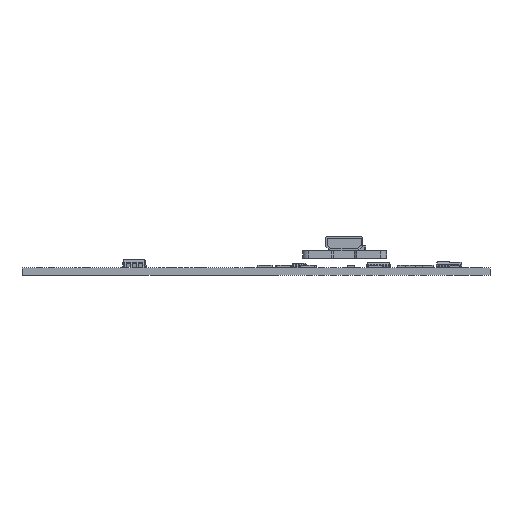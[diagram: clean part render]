
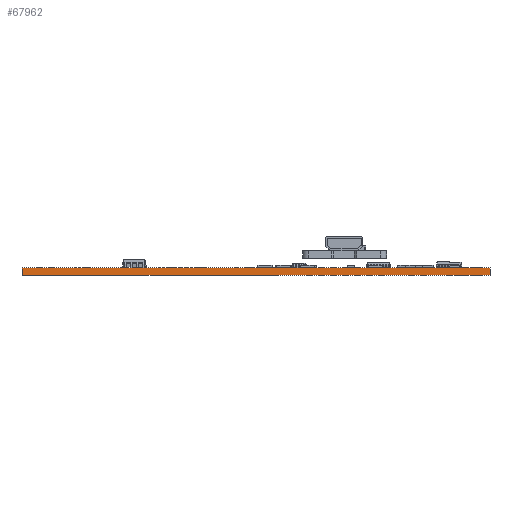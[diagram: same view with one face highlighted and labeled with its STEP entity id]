
A CAD part, left-side view. The second image highlights one B-rep face of the part: STEP entity #67962.
In plain terms, the highlighted planar face has unit normal (-1, 0, 0).
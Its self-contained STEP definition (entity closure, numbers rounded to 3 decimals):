
#67962 = ADVANCED_FACE('',(#67963),#67977,.F.);
#67963 = FACE_BOUND('',#67964,.F.);
#67964 = EDGE_LOOP('',(#67965,#68000,#68028,#68056));
#67965 = ORIENTED_EDGE('',*,*,#67966,.T.);
#67966 = EDGE_CURVE('',#67967,#67969,#67971,.T.);
#67967 = VERTEX_POINT('',#67968);
#67968 = CARTESIAN_POINT('',(99.06,-45.72,0.));
#67969 = VERTEX_POINT('',#67970);
#67970 = CARTESIAN_POINT('',(99.06,-45.72,1.6));
#67971 = SURFACE_CURVE('',#67972,(#67976,#67988),.PCURVE_S1.);
#67972 = LINE('',#67973,#67974);
#67973 = CARTESIAN_POINT('',(99.06,-45.72,0.));
#67974 = VECTOR('',#67975,1.);
#67975 = DIRECTION('',(0.,0.,1.));
#67976 = PCURVE('',#67977,#67982);
#67977 = PLANE('',#67978);
#67978 = AXIS2_PLACEMENT_3D('',#67979,#67980,#67981);
#67979 = CARTESIAN_POINT('',(99.06,-45.72,0.));
#67980 = DIRECTION('',(1.,0.,0.));
#67981 = DIRECTION('',(0.,-1.,0.));
#67982 = DEFINITIONAL_REPRESENTATION('',(#67983),#67987);
#67983 = LINE('',#67984,#67985);
#67984 = CARTESIAN_POINT('',(0.,0.));
#67985 = VECTOR('',#67986,1.);
#67986 = DIRECTION('',(0.,-1.));
#67987 = ( GEOMETRIC_REPRESENTATION_CONTEXT(2) 
PARAMETRIC_REPRESENTATION_CONTEXT() REPRESENTATION_CONTEXT('2D SPACE',''
  ) );
#67988 = PCURVE('',#67989,#67994);
#67989 = PLANE('',#67990);
#67990 = AXIS2_PLACEMENT_3D('',#67991,#67992,#67993);
#67991 = CARTESIAN_POINT('',(198.12,-45.72,0.));
#67992 = DIRECTION('',(0.,-1.,0.));
#67993 = DIRECTION('',(-1.,0.,0.));
#67994 = DEFINITIONAL_REPRESENTATION('',(#67995),#67999);
#67995 = LINE('',#67996,#67997);
#67996 = CARTESIAN_POINT('',(99.06,0.));
#67997 = VECTOR('',#67998,1.);
#67998 = DIRECTION('',(0.,-1.));
#67999 = ( GEOMETRIC_REPRESENTATION_CONTEXT(2) 
PARAMETRIC_REPRESENTATION_CONTEXT() REPRESENTATION_CONTEXT('2D SPACE',''
  ) );
#68000 = ORIENTED_EDGE('',*,*,#68001,.T.);
#68001 = EDGE_CURVE('',#67969,#68002,#68004,.T.);
#68002 = VERTEX_POINT('',#68003);
#68003 = CARTESIAN_POINT('',(99.06,-144.78,1.6));
#68004 = SURFACE_CURVE('',#68005,(#68009,#68016),.PCURVE_S1.);
#68005 = LINE('',#68006,#68007);
#68006 = CARTESIAN_POINT('',(99.06,-45.72,1.6));
#68007 = VECTOR('',#68008,1.);
#68008 = DIRECTION('',(0.,-1.,0.));
#68009 = PCURVE('',#67977,#68010);
#68010 = DEFINITIONAL_REPRESENTATION('',(#68011),#68015);
#68011 = LINE('',#68012,#68013);
#68012 = CARTESIAN_POINT('',(0.,-1.6));
#68013 = VECTOR('',#68014,1.);
#68014 = DIRECTION('',(1.,0.));
#68015 = ( GEOMETRIC_REPRESENTATION_CONTEXT(2) 
PARAMETRIC_REPRESENTATION_CONTEXT() REPRESENTATION_CONTEXT('2D SPACE',''
  ) );
#68016 = PCURVE('',#68017,#68022);
#68017 = PLANE('',#68018);
#68018 = AXIS2_PLACEMENT_3D('',#68019,#68020,#68021);
#68019 = CARTESIAN_POINT('',(148.59,-95.25,1.6));
#68020 = DIRECTION('',(0.,0.,1.));
#68021 = DIRECTION('',(1.,0.,0.));
#68022 = DEFINITIONAL_REPRESENTATION('',(#68023),#68027);
#68023 = LINE('',#68024,#68025);
#68024 = CARTESIAN_POINT('',(-49.53,49.53));
#68025 = VECTOR('',#68026,1.);
#68026 = DIRECTION('',(0.,-1.));
#68027 = ( GEOMETRIC_REPRESENTATION_CONTEXT(2) 
PARAMETRIC_REPRESENTATION_CONTEXT() REPRESENTATION_CONTEXT('2D SPACE',''
  ) );
#68028 = ORIENTED_EDGE('',*,*,#68029,.F.);
#68029 = EDGE_CURVE('',#68030,#68002,#68032,.T.);
#68030 = VERTEX_POINT('',#68031);
#68031 = CARTESIAN_POINT('',(99.06,-144.78,0.));
#68032 = SURFACE_CURVE('',#68033,(#68037,#68044),.PCURVE_S1.);
#68033 = LINE('',#68034,#68035);
#68034 = CARTESIAN_POINT('',(99.06,-144.78,0.));
#68035 = VECTOR('',#68036,1.);
#68036 = DIRECTION('',(0.,0.,1.));
#68037 = PCURVE('',#67977,#68038);
#68038 = DEFINITIONAL_REPRESENTATION('',(#68039),#68043);
#68039 = LINE('',#68040,#68041);
#68040 = CARTESIAN_POINT('',(99.06,0.));
#68041 = VECTOR('',#68042,1.);
#68042 = DIRECTION('',(0.,-1.));
#68043 = ( GEOMETRIC_REPRESENTATION_CONTEXT(2) 
PARAMETRIC_REPRESENTATION_CONTEXT() REPRESENTATION_CONTEXT('2D SPACE',''
  ) );
#68044 = PCURVE('',#68045,#68050);
#68045 = PLANE('',#68046);
#68046 = AXIS2_PLACEMENT_3D('',#68047,#68048,#68049);
#68047 = CARTESIAN_POINT('',(99.06,-144.78,0.));
#68048 = DIRECTION('',(0.,1.,0.));
#68049 = DIRECTION('',(1.,0.,0.));
#68050 = DEFINITIONAL_REPRESENTATION('',(#68051),#68055);
#68051 = LINE('',#68052,#68053);
#68052 = CARTESIAN_POINT('',(0.,0.));
#68053 = VECTOR('',#68054,1.);
#68054 = DIRECTION('',(0.,-1.));
#68055 = ( GEOMETRIC_REPRESENTATION_CONTEXT(2) 
PARAMETRIC_REPRESENTATION_CONTEXT() REPRESENTATION_CONTEXT('2D SPACE',''
  ) );
#68056 = ORIENTED_EDGE('',*,*,#68057,.F.);
#68057 = EDGE_CURVE('',#67967,#68030,#68058,.T.);
#68058 = SURFACE_CURVE('',#68059,(#68063,#68070),.PCURVE_S1.);
#68059 = LINE('',#68060,#68061);
#68060 = CARTESIAN_POINT('',(99.06,-45.72,0.));
#68061 = VECTOR('',#68062,1.);
#68062 = DIRECTION('',(0.,-1.,0.));
#68063 = PCURVE('',#67977,#68064);
#68064 = DEFINITIONAL_REPRESENTATION('',(#68065),#68069);
#68065 = LINE('',#68066,#68067);
#68066 = CARTESIAN_POINT('',(0.,0.));
#68067 = VECTOR('',#68068,1.);
#68068 = DIRECTION('',(1.,0.));
#68069 = ( GEOMETRIC_REPRESENTATION_CONTEXT(2) 
PARAMETRIC_REPRESENTATION_CONTEXT() REPRESENTATION_CONTEXT('2D SPACE',''
  ) );
#68070 = PCURVE('',#68071,#68076);
#68071 = PLANE('',#68072);
#68072 = AXIS2_PLACEMENT_3D('',#68073,#68074,#68075);
#68073 = CARTESIAN_POINT('',(148.59,-95.25,0.));
#68074 = DIRECTION('',(0.,0.,1.));
#68075 = DIRECTION('',(1.,0.,0.));
#68076 = DEFINITIONAL_REPRESENTATION('',(#68077),#68081);
#68077 = LINE('',#68078,#68079);
#68078 = CARTESIAN_POINT('',(-49.53,49.53));
#68079 = VECTOR('',#68080,1.);
#68080 = DIRECTION('',(0.,-1.));
#68081 = ( GEOMETRIC_REPRESENTATION_CONTEXT(2) 
PARAMETRIC_REPRESENTATION_CONTEXT() REPRESENTATION_CONTEXT('2D SPACE',''
  ) );
